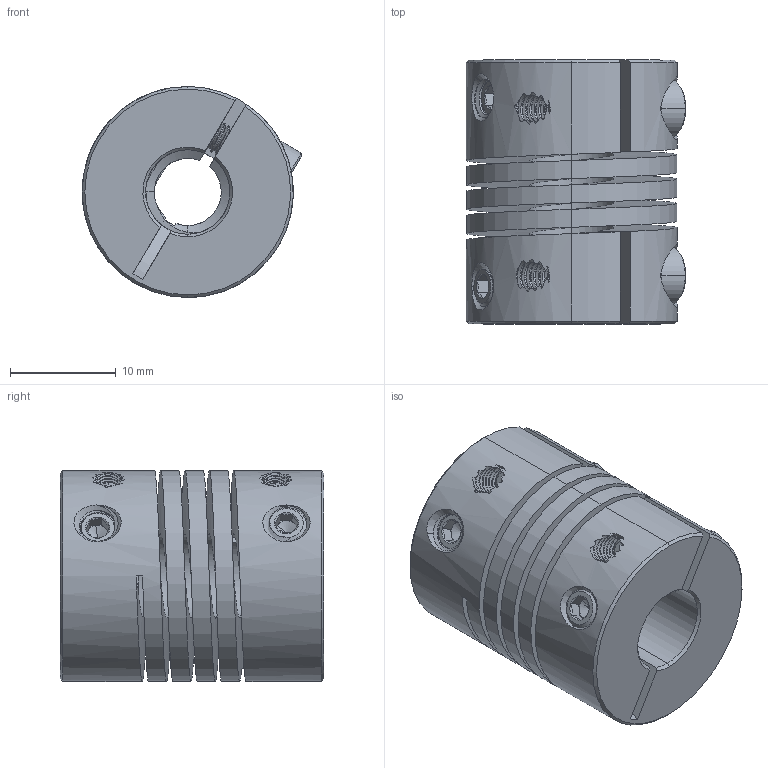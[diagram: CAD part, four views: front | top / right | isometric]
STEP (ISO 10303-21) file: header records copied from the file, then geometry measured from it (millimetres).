
FILE_DESCRIPTION (( 'STEP AP203' ), '1' );
FILE_NAME ('4002-0008-0250 assembly.STEP', '2018-01-11T21:19:10', ( '' ), ( '' ), 'SwSTEP 2.0', 'SolidWorks 2016', '' );
FILE_SCHEMA (( 'CONFIG_CONTROL_DESIGN' ));
Length unit declared in the file: millimetre
Products named in the file (4): 4002-0008-0250; 4002 series set-screw_91390A112; 4002-0008-0250 assembly; 4002 series pinch bolt_91290A115
Assembly tree (5 placements, depth 2):
  4002-0008-0250 assembly
    4002-0008-0250
    4002 series set-screw_91390A112  x2
    4002 series pinch bolt_91290A115  x2
Bounding box: 20.81 x 25 x 20 mm (x, y, z)
Volume: 5738.6 mm3; surface area: 6297.9 mm2
Topology: 5 solids, 5 shells, 664 faces, 1863 edges, 1208 vertices
Faces by surface type: cylinder 480, cone 84, plane 60, bspline 40
Entity records: 48166 total; most frequent: CARTESIAN_POINT 37002, ORIENTED_EDGE 2894, DIRECTION 1622, EDGE_CURVE 1447, VERTEX_POINT 949, AXIS2_PLACEMENT_3D 591, EDGE_LOOP 526, FACE_OUTER_BOUND 508
